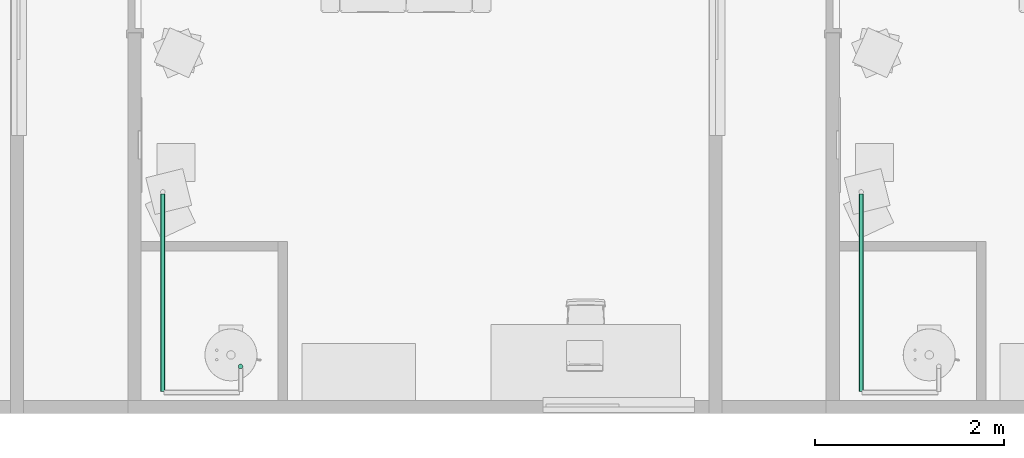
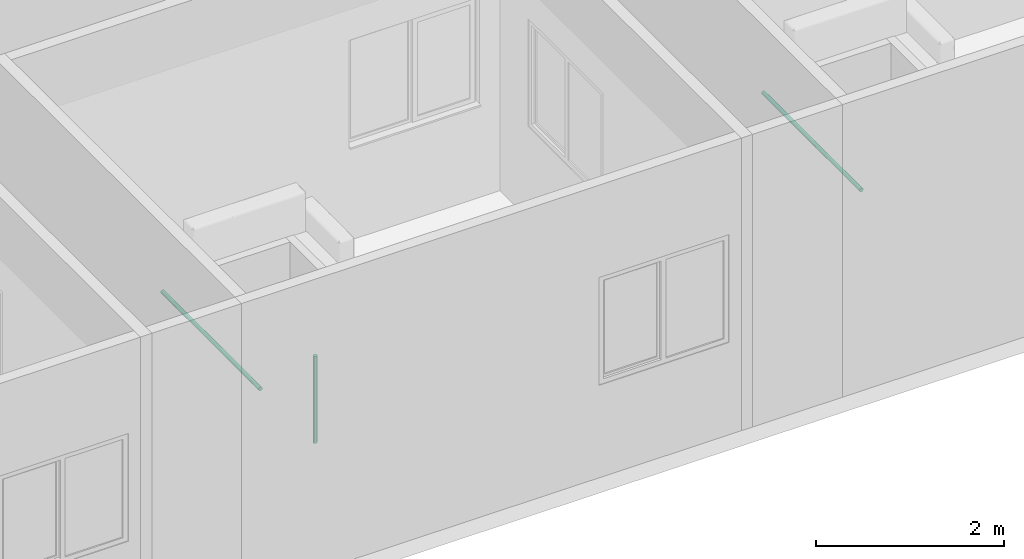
# One storey, part 19 of 71: 3 pipe segments.
"""IFC4 building model written with IfcOpenShell, lengths in centimetres."""

from ifc_helpers import new_model, entity, si_unit, converted_unit, derived_unit, direction, frame, origin, place, context, subcontext, project, spatial, arc, indexed_curve, outline, extrude, type_object, element, save


model = new_model("IFC4")

# Units and contexts
model_context = context("Model", 3, precision=0.001, world=origin(), true_north=direction((6.123233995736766e-17, 1.0)))
body_context = subcontext(model_context, "Body", "Model", "MODEL_VIEW")
ifc_project = project(units=[si_unit("LENGTHUNIT", "METRE", prefix="CENTI"), si_unit("AREAUNIT", "SQUARE_METRE"), si_unit("VOLUMEUNIT", "CUBIC_METRE"), derived_unit("THERMALTRANSMITTANCEUNIT", [(si_unit("MASSUNIT", "GRAM", prefix="KILO"), 1), (si_unit("THERMODYNAMICTEMPERATUREUNIT", "KELVIN"), -1), (si_unit("TIMEUNIT", "SECOND"), -3)]), converted_unit("PLANEANGLEUNIT", "DEGREE", entity("IfcPlaneAngleMeasure", 0.017453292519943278), si_unit("PLANEANGLEUNIT", "RADIAN"), dimensions=[0, 0, 0, 0, 0, 0, 0]), derived_unit("MASSDENSITYUNIT", [(si_unit("MASSUNIT", "GRAM", prefix="KILO"), 1), (si_unit("LENGTHUNIT", "METRE"), -3)]), derived_unit("VAPORPERMEABILITYUNIT", [(si_unit("LENGTHUNIT", "METRE"), -1), (si_unit("TIMEUNIT", "SECOND"), 1)]), derived_unit("USERDEFINED", [(si_unit("MASSUNIT", "GRAM", prefix="KILO"), 1), (si_unit("TIMEUNIT", "SECOND"), -3), (si_unit("LENGTHUNIT", "METRE"), 3), (si_unit("ELECTRICCURRENTUNIT", "AMPERE"), -2)]), derived_unit("SPECIFICHEATCAPACITYUNIT", [(si_unit("THERMODYNAMICTEMPERATUREUNIT", "KELVIN"), -1), (si_unit("LENGTHUNIT", "METRE"), 2), (si_unit("TIMEUNIT", "SECOND"), -2)]), derived_unit("THERMALCONDUCTANCEUNIT", [(si_unit("MASSUNIT", "GRAM", prefix="KILO"), 1), (si_unit("THERMODYNAMICTEMPERATUREUNIT", "KELVIN"), -1), (si_unit("TIMEUNIT", "SECOND"), -3), (si_unit("LENGTHUNIT", "METRE"), 1)]), si_unit("PRESSUREUNIT", "PASCAL"), derived_unit("MODULUSOFELASTICITYUNIT", [(si_unit("MASSUNIT", "GRAM", prefix="KILO"), 1), (si_unit("LENGTHUNIT", "METRE"), -1), (si_unit("TIMEUNIT", "SECOND"), -2)]), derived_unit("THERMALEXPANSIONCOEFFICIENTUNIT", [(si_unit("THERMODYNAMICTEMPERATUREUNIT", "KELVIN"), -1)])], contexts=[model_context])

# Site, building, storey
site_placement = place(None, origin())
site = spatial("IfcSite", under=ifc_project, at=site_placement, Name="Default", CompositionType="ELEMENT")
building_placement = place(site_placement, origin())
building = spatial("IfcBuilding", under=site, at=building_placement, Name="IDS Escape Game Building", CompositionType="ELEMENT")
storey_placement = place(building_placement, frame((0.0, 0.0, 400.0)))
storey = spatial("IfcBuildingStorey", under=building, at=storey_placement, Name="01_First Floor", CompositionType="ELEMENT", Elevation=399.99999999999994)

# Pipe segments
pipe_segment_type = type_object("IfcPipeSegmentType", Name="Pipe Types:Piping Aluminum", PredefinedType="NOTDEFINED")
pipe_segment_1_placement = place(storey_placement, origin())
element("IfcPipeSegment", 1, at=pipe_segment_1_placement, inside=storey, type_object=pipe_segment_type, Name="Pipe Types:Piping Aluminum", ObjectType="Pipe Types:Piping Aluminum", PredefinedType="NOTDEFINED", context=body_context, shape_type="SweptSolid", body=[
    extrude(outline(indexed_curve([(2.412999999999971, 0.0), (1.7062486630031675, 1.7062486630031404), (0.0, 2.412999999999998), (-1.7062486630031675, 1.7062486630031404), (-2.412999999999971, 6.767919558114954e-15), (-1.7062486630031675, -1.7062486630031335), (0.0, -2.412999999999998), (1.7062486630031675, -1.706248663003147)], segments=[arc(1, 2, 3), arc(3, 4, 5), arc(5, 6, 7), arc(7, 8, 1)], self_intersect=False)), frame((1588.1500000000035, 48.90000000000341, 128.0), z_axis=(0.0, 0.0, 1.0), x_axis=(-1.0, 0.0, 0.0)), (0.0, 0.0, 1.0), 112.90000000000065),
])
pipe_segment_2_placement = place(storey_placement, origin())
element("IfcPipeSegment", 2, at=pipe_segment_2_placement, inside=storey, type_object=pipe_segment_type, Name="Pipe Types:Piping Aluminum", ObjectType="Pipe Types:Piping Aluminum", PredefinedType="NOTDEFINED", context=body_context, shape_type="SweptSolid", body=[
    extrude(outline(indexed_curve([(2.412999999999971, 0.0), (1.7062486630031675, 1.7062486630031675), (0.0, 2.412999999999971), (-1.7062486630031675, 1.7062486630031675), (-2.412999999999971, 0.0), (-1.7062486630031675, -1.7062486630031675), (0.0, -2.412999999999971), (1.7062486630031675, -1.7062486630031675)], segments=[arc(1, 2, 3), arc(3, 4, 5), arc(5, 6, 7), arc(7, 8, 1)], self_intersect=False)), frame((1506.0467168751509, 22.364827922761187, 242.0), z_axis=(0.0, 1.0, 0.0), x_axis=(1.0, 0.0, 0.0)), (0.0, 0.0, 1.0), 208.80000000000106),
])
pipe_segment_3_placement = place(storey_placement, origin())
element("IfcPipeSegment", 3, at=pipe_segment_3_placement, inside=storey, type_object=pipe_segment_type, Name="Pipe Types:Piping Aluminum", ObjectType="Pipe Types:Piping Aluminum", PredefinedType="NOTDEFINED", context=body_context, shape_type="SweptSolid", body=[
    extrude(outline(indexed_curve([(2.412999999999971, 0.0), (1.7062486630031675, 1.7062486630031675), (0.0, 2.412999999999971), (-1.7062486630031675, 1.7062486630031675), (-2.412999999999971, 0.0), (-1.7062486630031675, -1.7062486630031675), (0.0, -2.412999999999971), (1.7062486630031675, -1.7062486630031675)], segments=[arc(1, 2, 3), arc(3, 4, 5), arc(5, 6, 7), arc(7, 8, 1)], self_intersect=False)), frame((2244.0467168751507, 22.364827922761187, 242.0), z_axis=(0.0, 1.0, 0.0), x_axis=(1.0, 0.0, 0.0)), (0.0, 0.0, 1.0), 208.80000000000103),
])

save(model, "model.ifc")
